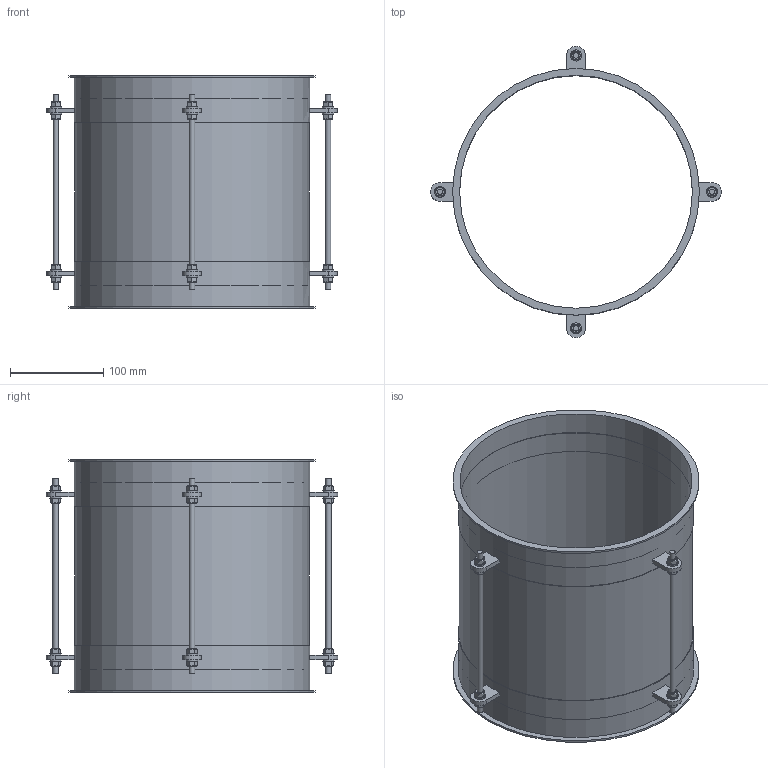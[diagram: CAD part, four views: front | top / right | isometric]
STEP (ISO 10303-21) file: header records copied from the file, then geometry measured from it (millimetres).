
FILE_DESCRIPTION((''),'2;1');
FILE_NAME('U:\Wolfgang\Marcel-3D\fertig\Kapitel 4\2511042.stp','2011-04-21T08:27:06',('TK1'),(''),'Autodesk Inventor 2010','Autodesk Inventor 2010','');
FILE_SCHEMA(('AUTOMOTIVE_DESIGN { 1 0 10303 214 1 1 1 1 }'));
Length unit declared in the file: millimetre
Products named in the file (6): 2511042; 2511042-1; 2511042-2; 2011042-3; ISO 4032 M6; ISO 7089 6 - 140 HV
Assembly tree (39 placements, depth 2):
  2511042
    2511042-1  x2
    2511042-2
    2011042-3  x4
    ISO 4032 M6  x16
    ISO 7089 6 - 140 HV  x16
Bounding box: 312.21 x 313 x 250 mm (x, y, z)
Volume: 278915.5 mm3; surface area: 537340.4 mm2
Topology: 45 solids, 45 shells, 362 faces, 758 edges, 490 vertices
Faces by surface type: plane 218, cylinder 64, cone 64, bspline 16
Full cylindrical faces by diameter (mm): 6 x12, 6.4 x16, 12 x16, 250 x3, 251.5 x3, 253 x2, 265 x2
Entity records: 1989 total; most frequent: DIRECTION 346, CARTESIAN_POINT 332, ORIENTED_EDGE 212, AXIS2_PLACEMENT_3D 148, EDGE_CURVE 106, EDGE_LOOP 100, VERTEX_POINT 80, FACE_OUTER_BOUND 60
